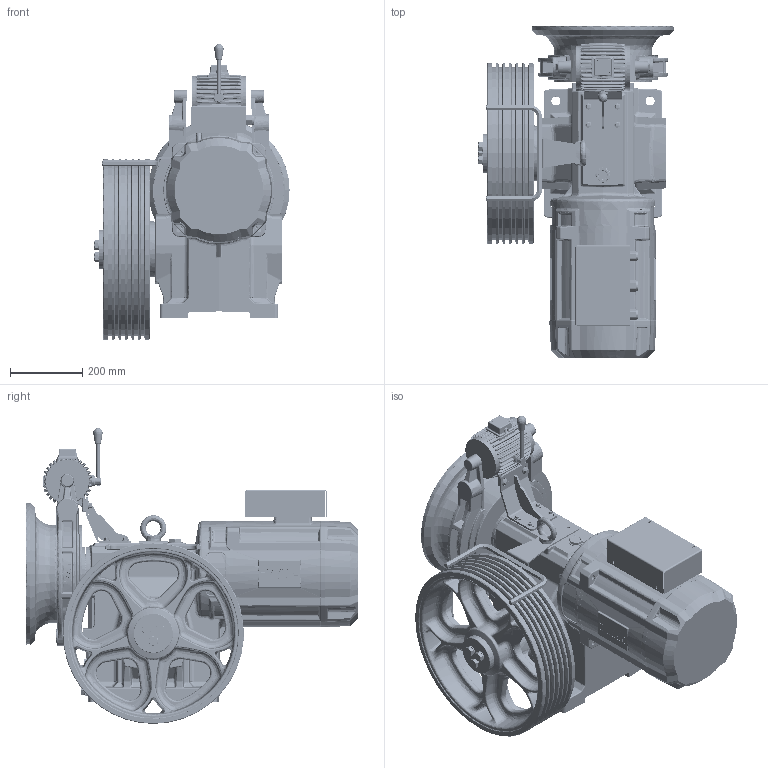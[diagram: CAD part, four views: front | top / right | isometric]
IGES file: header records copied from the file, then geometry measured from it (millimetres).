
Start section: START RECORD GO HERE.
Global section: file name: asm ajzaye motor gearbox BL270.igs; native system: DASSAULT SYSTEMES CATIA Version 5-6 Release 2017 - www.3ds.com; preprocessor: V5-6R2017_5.27.2.0.03-10-2017.22.00; author: j_siahi; organization: BEHRANLIFT; date: 20240925.111750; units: millimetre
Bounding box: 538.46 x 915.5 x 816.27 mm (x, y, z)
Surface area: 3212069.1 mm2 (no closed solid volume)
Topology: 0 solids, 0 shells, 7924 faces, 38085 edges, 37466 vertices
Faces by surface type: revolution 3411, bspline 3176, plane 1309, extrusion 28
